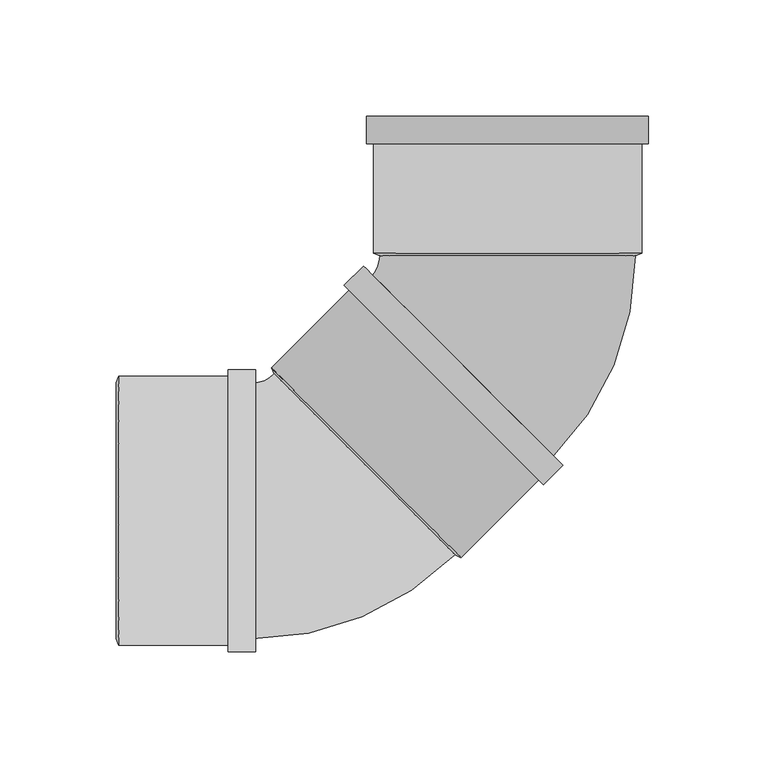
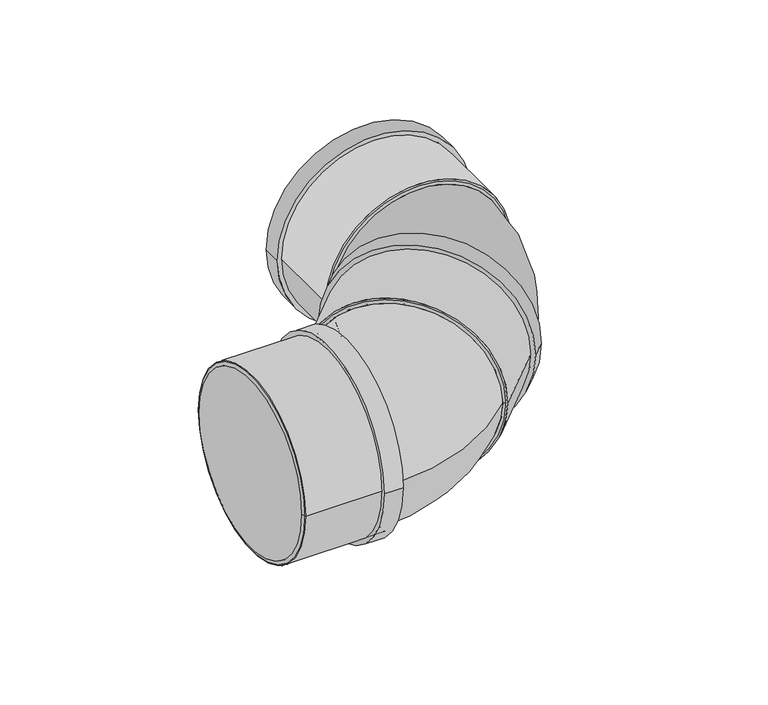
"""IFC4 building model written with IfcOpenShell, lengths in millimetres: pipe fitting geometry, Superdrain SK Bend_Composite 2x45 : Superdrain SK Bend_Composite 2x45."""

from ifc_helpers import new_model, si_unit, point, frame, origin, origin_2d, place, context, project, spatial, polyline, circle_curve, ellipse_curve, trimmed, segment, composite_curve, outline, extrude, source, transform, mapped, element, save
from ifc_brep_helpers import plane_surface, revolved_surface, advanced_brep


def pipe_fitting_c4481aa6(model_context):
    return source(origin(), model_context, "Body", "SolidModel", [
        advanced_brep(
        [(55.0, 109.6587012, 0.0), (-55.0, 109.6587012, 0.0), (18.9504617, 22.627417, 0.0), (-58.8312842, 100.4091629, 0.0)],
        [
            (0, 1, circle_curve(frame((0.0, 109.6587012, 0.0), z_axis=(0.0, 1.0, 0.0), x_axis=(-1.0, 0.0, 0.0)), 55.0)),
            (1, 0, circle_curve(frame((0.0, 109.6587012, 0.0), z_axis=(0.0, 0.9999999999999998, 0.0), x_axis=(-0.9999999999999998, 0.0, 0.0)), 55.0)),
            (2, 3, circle_curve(frame((-19.9404112, 61.51829, 0.0), z_axis=(-0.7071067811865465, -0.7071067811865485, 0.0), x_axis=(-0.7071067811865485, 0.7071067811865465, 0.0)), 55.0)),
            (3, 2, circle_curve(frame((-19.9404112, 61.51829, 0.0), z_axis=(-0.7071067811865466, -0.7071067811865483, 0.0), x_axis=(-0.7071067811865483, 0.7071067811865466, 0.0)), 55.0)),
            (3, 1, circle_curve(frame((-68.0808225, 109.6587012, 0.0), z_axis=(0.0, 0.0, 1.0), x_axis=(0.7071067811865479, 0.707106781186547, 0.0)), 13.0808225)),
            (0, 2, circle_curve(frame((-68.0808225, 109.6587012, 0.0), z_axis=(0.0, 0.0, -1.0), x_axis=(0.7071067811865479, 0.707106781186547, 0.0)), 123.0808225)),
        ],
        [
            plane_surface(frame((0.0, 109.6587012, 0.0), z_axis=(0.0, 1.0, 0.0), x_axis=(0.0, 0.0, -1.0))),
            plane_surface(frame((-19.9404112, 61.51829, 0.0), z_axis=(-0.7071067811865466, -0.7071067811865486, 0.0), x_axis=(0.0, 0.0, -1.0))),
            revolved_surface(trimmed(ellipse_curve(frame((-19.9404112, 157.7991124, 0.0), z_axis=(0.707106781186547, -0.7071067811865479, 0.0), x_axis=(-0.7071067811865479, -0.707106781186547, 0.0)), 55.0, 55.0), [point((-58.8312842, 118.9082395, 0.0))], [point((18.9504617, 196.6899854, 0.0))], True, "CARTESIAN"), (-68.0808225, 109.6587012, 0.0), (0.0, 0.0, 1.0)),
            revolved_surface(trimmed(ellipse_curve(frame((-19.9404112, 157.7991124, 0.0), z_axis=(0.707106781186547, -0.7071067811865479, 0.0), x_axis=(-0.7071067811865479, -0.707106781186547, 0.0)), 55.0, 55.0), [point((18.9504617, 196.6899854, 0.0))], [point((-58.8312842, 118.9082395, 0.0))], True, "CARTESIAN"), (-68.0808225, 109.6587012, 0.0), (0.0, 0.0, 1.0)),
        ],
        [
            (0, [[1, 2]]),
            (1, [[3, 4]]),
            (2, [[-4, 5, -1, 6]]),
            (3, [[-3, -6, -2, -5]]),
        ],
    ),
        extrude(outline(composite_curve([segment(trimmed(circle_curve(origin_2d(), 57.75), [point((0.0, 57.75))], [point((0.0, -57.75))], False, "CARTESIAN"), True, "CONTINUOUS"), segment(trimmed(circle_curve(origin_2d(), 57.75), [point((0.0, -57.75))], [point((0.0, 57.75))], False, "CARTESIAN"), True, "CONTINUOUS")], self_intersect=False), holes=[composite_curve([segment(trimmed(circle_curve(origin_2d(), 55.0), [point((0.0, 55.0))], [point((0.0, -55.0))], True, "CARTESIAN"), True, "CONTINUOUS"), segment(trimmed(circle_curve(origin_2d(), 55.0), [point((0.0, -55.0))], [point((0.0, 55.0))], True, "CARTESIAN"), True, "CONTINUOUS")], self_intersect=False)]), frame((0.0, 110.6587012, 0.0), z_axis=(0.0, 1.0, 0.0), x_axis=(0.0, 0.0, 1.0)), (0.0, 0.0, 1.0), 59.0),
        extrude(outline(composite_curve([segment(trimmed(circle_curve(origin_2d(), 60.6375), [point((0.0, -60.6375))], [point((0.0, 60.6375))], False, "CARTESIAN"), True, "CONTINUOUS"), segment(trimmed(circle_curve(origin_2d(), 60.6375), [point((0.0, 60.6375))], [point((0.0, -60.6375))], False, "CARTESIAN"), True, "CONTINUOUS")], self_intersect=False), holes=[composite_curve([segment(trimmed(circle_curve(origin_2d(), 55.0), [point((0.0, -55.0))], [point((0.0, 55.0))], True, "CARTESIAN"), True, "CONTINUOUS"), segment(trimmed(circle_curve(origin_2d(), 55.0), [point((0.0, 55.0))], [point((0.0, -55.0))], True, "CARTESIAN"), True, "CONTINUOUS")], self_intersect=False)]), frame((0.0, 157.8587012, 0.0), z_axis=(0.0, 1.0, 0.0), x_axis=(0.0, 0.0, 1.0)), (0.0, 0.0, 1.0), 11.8),
        advanced_brep(
        [(57.75, 110.6587012, 0.0), (-57.75, 110.6587012, 0.0), (55.0, 109.6587012, 0.0), (-55.0, 109.6587012, 0.0)],
        [
            (0, 1, circle_curve(frame((0.0, 110.6587012, 0.0), z_axis=(0.0, 1.0, 0.0), x_axis=(0.9999999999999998, 0.0, 0.0)), 57.75)),
            (1, 0, circle_curve(frame((0.0, 110.6587012, 0.0), z_axis=(0.0, 1.0, 0.0), x_axis=(-0.9999999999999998, 0.0, 0.0)), 57.75)),
            (2, 3, circle_curve(frame((0.0, 109.6587012, 0.0), z_axis=(0.0, -1.0, 0.0), x_axis=(-0.9999999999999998, 0.0, 0.0)), 55.0)),
            (3, 2, circle_curve(frame((0.0, 109.6587012, 0.0), z_axis=(0.0, -1.0, 0.0), x_axis=(0.9999999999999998, 0.0, 0.0)), 55.0)),
            (3, 1),
            (0, 2),
        ],
        [
            plane_surface(frame((0.0, 110.6587012, 0.0), z_axis=(0.0, 1.0, 0.0), x_axis=(0.0, 0.0, -1.0))),
            plane_surface(frame((0.0, 109.6587012, 0.0), z_axis=(0.0, -1.0, 0.0), x_axis=(0.0, 0.0, -1.0))),
            revolved_surface(polyline([(-55.0, 109.6587012, 0.0), (-57.75, 110.6587012, 0.0)]), (0.0, 89.6587012, 0.0), (0.0, 0.9999999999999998, 0.0)),
            revolved_surface(polyline([(55.0, 109.6587012, 0.0), (57.75, 110.6587012, 0.0)]), (0.0, 89.6587012, 0.0), (0.0, 0.9999999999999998, 0.0)),
        ],
        [
            (0, [[1, 2]]),
            (1, [[3, 4]]),
            (2, [[-4, 5, -1, 6]]),
            (3, [[-3, -6, -2, -5]]),
        ],
    ),
        extrude(outline(composite_curve([segment(trimmed(circle_curve(origin_2d(), 55.0), [point((0.0, -55.0))], [point((0.0, 55.0))], False, "CARTESIAN"), True, "CONTINUOUS"), segment(trimmed(circle_curve(origin_2d(), 55.0), [point((0.0, 55.0))], [point((0.0, -55.0))], False, "CARTESIAN"), True, "CONTINUOUS")], self_intersect=False)), frame((-60.8111832, 20.647518, 0.0), z_axis=(0.707106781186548, 0.7071067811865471, 0.0), x_axis=(0.0, 0.0, -1.0)), (0.0, 0.0, 1.0), 57.8),
        extrude(outline(composite_curve([segment(trimmed(circle_curve(origin_2d(), 57.75), [point((57.75, 0.0))], [point((-57.75, 0.0))], False, "CARTESIAN"), True, "CONTINUOUS"), segment(trimmed(circle_curve(origin_2d(), 57.75), [point((-57.75, 0.0))], [point((57.75, 0.0))], False, "CARTESIAN"), True, "CONTINUOUS")], self_intersect=False), holes=[composite_curve([segment(trimmed(circle_curve(origin_2d(), 55.0), [point((55.0, 0.0))], [point((-55.0, 0.0))], True, "CARTESIAN"), True, "CONTINUOUS"), segment(trimmed(circle_curve(origin_2d(), 55.0), [point((-55.0, 0.0))], [point((55.0, 0.0))], True, "CARTESIAN"), True, "CONTINUOUS")], self_intersect=False)]), frame((-167.4587012, 0.0, 0.0), z_axis=(1.0, 0.0, 0.0), x_axis=(0.0, 1.0, 0.0)), (0.0, 0.0, 1.0), 59.0),
        extrude(outline(composite_curve([segment(trimmed(circle_curve(origin_2d(), 60.6375), [point((60.6375, 0.0))], [point((-60.6375, 0.0))], False, "CARTESIAN"), True, "CONTINUOUS"), segment(trimmed(circle_curve(origin_2d(), 60.6375), [point((-60.6375, 0.0))], [point((60.6375, 0.0))], False, "CARTESIAN"), True, "CONTINUOUS")], self_intersect=False), holes=[composite_curve([segment(trimmed(circle_curve(origin_2d(), 55.0), [point((55.0, 0.0))], [point((-55.0, 0.0))], True, "CARTESIAN"), True, "CONTINUOUS"), segment(trimmed(circle_curve(origin_2d(), 55.0), [point((-55.0, 0.0))], [point((55.0, 0.0))], True, "CARTESIAN"), True, "CONTINUOUS")], self_intersect=False)]), frame((-120.2587012, 0.0, 0.0), z_axis=(1.0, 0.0, 0.0), x_axis=(0.0, 1.0, 0.0)), (0.0, 0.0, 1.0), 11.8),
        advanced_brep(
        [(-168.4587012, 55.0, 0.0), (-168.4587012, -55.0, 0.0), (-167.4587012, 57.75, 0.0), (-167.4587012, -57.75, 0.0)],
        [
            (0, 1, circle_curve(frame((-168.4587012, 0.0, 0.0), z_axis=(-1.0, 0.0, 0.0), x_axis=(0.0, 1.0, 0.0)), 55.0)),
            (1, 0, circle_curve(frame((-168.4587012, 0.0, 0.0), z_axis=(-1.0, 0.0, 0.0), x_axis=(0.0, -1.0, 0.0)), 55.0)),
            (2, 3, circle_curve(frame((-167.4587012, 0.0, 0.0), z_axis=(1.0, 0.0, 0.0), x_axis=(0.0, -1.0, 0.0)), 57.75)),
            (3, 2, circle_curve(frame((-167.4587012, 0.0, 0.0), z_axis=(1.0, 0.0, 0.0), x_axis=(0.0, 1.0, 0.0)), 57.75)),
            (3, 1),
            (0, 2),
        ],
        [
            plane_surface(frame((-168.4587012, 0.0, 0.0), z_axis=(-1.0, 0.0, 0.0), x_axis=(0.0, 0.0, -1.0))),
            plane_surface(frame((-167.4587012, 0.0, 0.0), z_axis=(1.0, 0.0, 0.0), x_axis=(0.0, 0.0, -1.0))),
            revolved_surface(polyline([(-168.4587012, 55.0, 0.0), (-167.4587012, 57.75, 0.0)]), (-188.4587012, 0.0, 0.0), (1.0, 0.0, 0.0)),
            revolved_surface(polyline([(-168.4587012, -55.0, 0.0), (-167.4587012, -57.75, 0.0)]), (-188.4587012, 0.0, 0.0), (1.0, 0.0, 0.0)),
        ],
        [
            (0, [[1, 2]]),
            (1, [[3, 4]]),
            (2, [[-4, 5, -1, 6]]),
            (3, [[-3, -6, -2, -5]]),
        ],
    ),
        advanced_brep(
        [(-22.627417, -18.9504617, 0.0), (-100.4091629, 58.8312842, 0.0), (-109.6587012, -55.0, 0.0), (-109.6587012, 55.0, 0.0)],
        [
            (0, 1, circle_curve(frame((-61.51829, 19.9404112, 0.0), z_axis=(0.7071067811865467, 0.7071067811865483, 0.0), x_axis=(-0.7071067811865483, 0.7071067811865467, 0.0)), 55.0)),
            (1, 0, circle_curve(frame((-61.51829, 19.9404112, 0.0), z_axis=(0.7071067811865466, 0.7071067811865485, 0.0), x_axis=(-0.7071067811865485, 0.7071067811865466, 0.0)), 55.0)),
            (2, 3, circle_curve(frame((-109.6587012, 0.0, 0.0), z_axis=(-1.0, 0.0, 0.0), x_axis=(0.0, 1.0, 0.0)), 55.0)),
            (3, 2, circle_curve(frame((-109.6587012, 0.0, 0.0), z_axis=(-1.0, 0.0, 0.0), x_axis=(0.0, 1.0, 0.0)), 55.0)),
            (3, 1, circle_curve(frame((-109.6587012, 68.0808225, 0.0), z_axis=(0.0, 0.0, 1.0), x_axis=(1.0, 0.0, 0.0)), 13.0808225)),
            (0, 2, circle_curve(frame((-109.6587012, 68.0808225, 0.0), z_axis=(0.0, 0.0, -1.0), x_axis=(1.0, 0.0, 0.0)), 123.0808225)),
        ],
        [
            plane_surface(frame((-61.51829, 19.9404112, 0.0), z_axis=(0.7071067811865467, 0.7071067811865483, 0.0), x_axis=(0.0, 0.0, -1.0))),
            plane_surface(frame((-109.6587012, 0.0, 0.0), z_axis=(-1.0, 0.0, 0.0), x_axis=(0.0, 0.0, -1.0))),
            revolved_surface(trimmed(ellipse_curve(frame((-41.5778787, 68.0808225, 0.0), z_axis=(0.0, -1.0, 0.0), x_axis=(-1.0, 0.0, 0.0)), 55.0, 55.0), [point((-96.5778787, 68.0808225, 0.0))], [point((13.4221213, 68.0808225, 0.0))], True, "CARTESIAN"), (-109.6587012, 68.0808225, 0.0), (0.0, 0.0, 1.0)),
            revolved_surface(trimmed(ellipse_curve(frame((-41.5778787, 68.0808225, 0.0), z_axis=(0.0, -1.0, 0.0), x_axis=(-1.0, 0.0, 0.0)), 55.0, 55.0), [point((13.4221213, 68.0808225, 0.0))], [point((-96.5778787, 68.0808225, 0.0))], True, "CARTESIAN"), (-109.6587012, 68.0808225, 0.0), (0.0, 0.0, 1.0)),
        ],
        [
            (0, [[1, 2]]),
            (1, [[3, 4]]),
            (2, [[-4, 5, -1, 6]]),
            (3, [[-3, -6, -2, -5]]),
        ],
    ),
        extrude(outline(composite_curve([segment(trimmed(circle_curve(origin_2d(), 57.75), [point((0.0, 57.75))], [point((0.0, -57.75))], False, "CARTESIAN"), True, "CONTINUOUS"), segment(trimmed(circle_curve(origin_2d(), 57.75), [point((0.0, -57.75))], [point((0.0, 57.75))], False, "CARTESIAN"), True, "CONTINUOUS")], self_intersect=False), holes=[composite_curve([segment(trimmed(circle_curve(origin_2d(), 55.0), [point((0.0, 55.0))], [point((0.0, -55.0))], True, "CARTESIAN"), True, "CONTINUOUS"), segment(trimmed(circle_curve(origin_2d(), 55.0), [point((0.0, -55.0))], [point((0.0, 55.0))], True, "CARTESIAN"), True, "CONTINUOUS")], self_intersect=False)]), frame((-60.8111832, 20.647518, 0.0), z_axis=(0.707106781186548, 0.7071067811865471, 0.0), x_axis=(0.0, 0.0, 1.0)), (0.0, 0.0, 1.0), 59.0),
        extrude(outline(composite_curve([segment(trimmed(circle_curve(origin_2d(), 60.6375), [point((0.0, -60.6375))], [point((0.0, 60.6375))], False, "CARTESIAN"), True, "CONTINUOUS"), segment(trimmed(circle_curve(origin_2d(), 60.6375), [point((0.0, 60.6375))], [point((0.0, -60.6375))], False, "CARTESIAN"), True, "CONTINUOUS")], self_intersect=False), holes=[composite_curve([segment(trimmed(circle_curve(origin_2d(), 55.0), [point((0.0, -55.0))], [point((0.0, 55.0))], True, "CARTESIAN"), True, "CONTINUOUS"), segment(trimmed(circle_curve(origin_2d(), 55.0), [point((0.0, 55.0))], [point((0.0, -55.0))], True, "CARTESIAN"), True, "CONTINUOUS")], self_intersect=False)]), frame((-27.4357431, 54.0229581, 0.0), z_axis=(0.7071067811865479, 0.7071067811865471, 0.0), x_axis=(0.0, 0.0, 1.0)), (0.0, 0.0, 1.0), 11.8),
        advanced_brep(
        [(-19.9757666, -20.1878986, 0.0), (-101.6465998, 61.4829346, 0.0), (-22.627417, -18.9504617, 0.0), (-100.4091629, 58.8312842, 0.0)],
        [
            (0, 1, circle_curve(frame((-60.8111832, 20.647518, 0.0), z_axis=(0.7071067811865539, 0.7071067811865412, 0.0), x_axis=(0.7071067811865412, -0.7071067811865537, 0.0)), 57.75)),
            (1, 0, circle_curve(frame((-60.8111832, 20.647518, 0.0), z_axis=(0.7071067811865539, 0.7071067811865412, 0.0), x_axis=(-0.7071067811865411, 0.7071067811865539, 0.0)), 57.75)),
            (2, 3, circle_curve(frame((-61.51829, 19.9404112, 0.0), z_axis=(-0.7071067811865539, -0.7071067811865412, 0.0), x_axis=(-0.7071067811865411, 0.7071067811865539, 0.0)), 55.0)),
            (3, 2, circle_curve(frame((-61.51829, 19.9404112, 0.0), z_axis=(-0.7071067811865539, -0.7071067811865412, 0.0), x_axis=(0.7071067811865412, -0.7071067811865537, 0.0)), 55.0)),
            (3, 1),
            (0, 2),
        ],
        [
            plane_surface(frame((-60.8111832, 20.647518, 0.0), z_axis=(0.7071067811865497, 0.7071067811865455, 0.0), x_axis=(0.0, 0.0, -1.0))),
            plane_surface(frame((-61.51829, 19.9404112, 0.0), z_axis=(-0.7071067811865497, -0.7071067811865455, 0.0), x_axis=(0.0, 0.0, -1.0))),
            revolved_surface(polyline([(-100.40916290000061, 58.83128410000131, 0.0), (-101.64659980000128, 61.482934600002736, 0.0)]), (-75.6604256, 5.7982756, 0.0), (0.7071067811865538, 0.7071067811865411, 0.0)),
            revolved_surface(polyline([(-22.627417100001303, -18.95046169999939, 0.0), (-19.9757666, -20.1878986, 0.0)]), (-75.6604256, 5.7982756, 0.0), (0.7071067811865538, 0.7071067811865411, 0.0)),
        ],
        [
            (0, [[1, 2]]),
            (1, [[3, 4]]),
            (2, [[-4, 5, -1, 6]]),
            (3, [[-3, -6, -2, -5]]),
        ],
    ),
        extrude(outline(composite_curve([segment(trimmed(circle_curve(origin_2d(), 55.0), [point((-55.0, 0.0))], [point((55.0, 0.0))], False, "CARTESIAN"), True, "CONTINUOUS"), segment(trimmed(circle_curve(origin_2d(), 55.0), [point((55.0, 0.0))], [point((-55.0, 0.0))], False, "CARTESIAN"), True, "CONTINUOUS")], self_intersect=False)), frame((-167.4587012, 0.0, 0.0), z_axis=(1.0, 0.0, 0.0), x_axis=(0.0, 1.0, 0.0)), (0.0, 0.0, 1.0), 57.8),
    ])


if __name__ == "__main__":
    model = new_model("IFC4")
    model_context = context("Model", 3, world=origin())
    ifc_project = project(units=[si_unit("LENGTHUNIT", "METRE", prefix="MILLI")], contexts=[model_context])
    site = spatial("IfcSite", under=ifc_project)
    building = spatial("IfcBuilding", under=site)
    placement = place(None, origin())
    pipe_fitting_shape = pipe_fitting_c4481aa6(model_context)
    element("IfcPipeFitting", 1, ObjectType="Superdrain SK Bend_Composite 2x45 : Superdrain SK Bend_Composite 2x45", at=placement, inside=building, context=model_context, shape_type="MappedRepresentation", body=[
        mapped(pipe_fitting_shape, transform((0.0, 0.0, 0.0), x_axis=(1.0, 0.0, 0.0), y_axis=(0.0, 1.0, 0.0), z_axis=(0.0, 0.0, 1.0))),
    ])
    save(model, "model.ifc")
